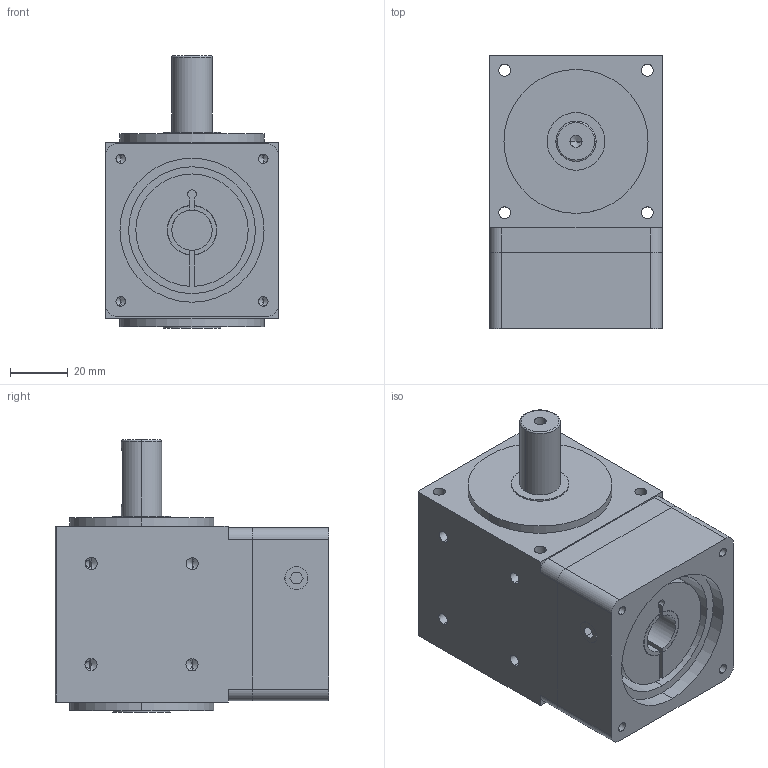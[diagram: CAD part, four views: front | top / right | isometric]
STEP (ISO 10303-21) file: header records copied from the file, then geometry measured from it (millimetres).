
FILE_DESCRIPTION (( 'STEP AP203' ), '1' );
FILE_NAME ('PLT60-S1Ä£ÐÍ£¨14-30 50-3 4-4.5-70).STEP', '2021-11-23T06:31:18', ( '' ), ( '' ), 'SwSTEP 2.0', 'SolidWorks 2016', '' );
FILE_SCHEMA (( 'CONFIG_CONTROL_DESIGN' ));
Length unit declared in the file: millimetre
Products named in the file (1): PLT60-S1模型（14-30 50-3 4-4.5-70)
Bounding box: 60 x 95 x 94.5 mm (x, y, z)
Volume: 335302.1 mm3; surface area: 52350.3 mm2
Topology: 2 solids, 2 shells, 195 faces, 485 edges, 297 vertices
Faces by surface type: cylinder 95, plane 60, cone 38, torus 2
Entity records: 5942 total; most frequent: CARTESIAN_POINT 1189, DIRECTION 1031, ORIENTED_EDGE 918, EDGE_CURVE 459, AXIS2_PLACEMENT_3D 399, VERTEX_POINT 297, EDGE_LOOP 242, VECTOR 233
